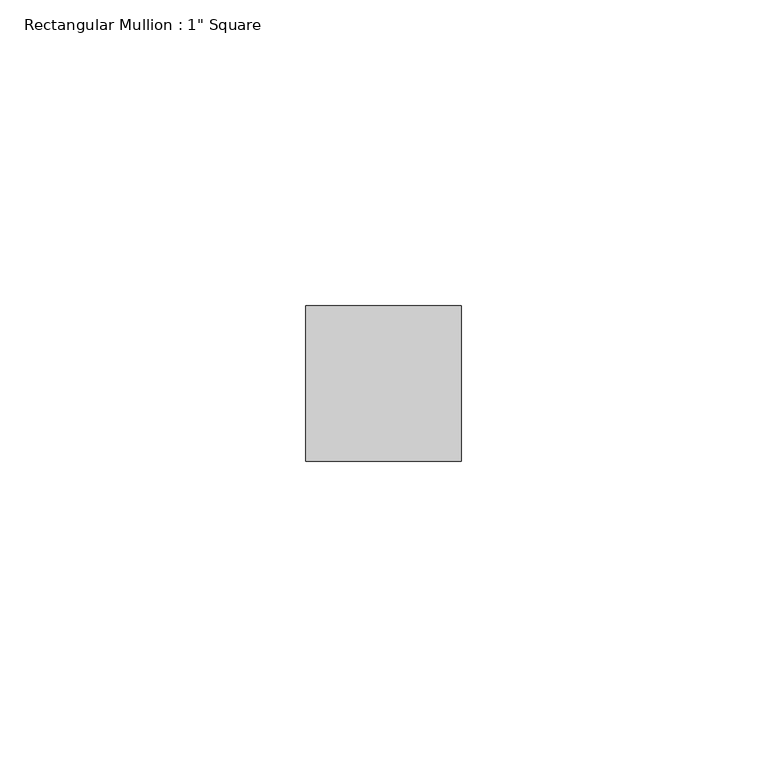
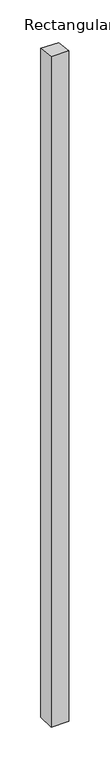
"""IFC4 building model written with IfcOpenShell, lengths in millimetres: member geometry."""

from ifc_helpers import new_model, si_unit, frame, origin, place, context, project, spatial, polyline, outline, extrude, source, transform, mapped, element, save


def member_0322ee24(model_context):
    return source(origin(), model_context, "Body", "SweptSolid", [
        extrude(outline(polyline([(-12.7, 1.4005781), (12.7, -1.4005781), (12.7, -1004.6900408), (-12.7, -1004.6900408), (-12.7, 1.4005781)])), frame((-12.7, 0.0, 0.0), z_axis=(1.0, 0.0, 0.0), x_axis=(0.0, 1.0, 0.0)), (0.0, 0.0, 1.0), 25.4),
    ])


if __name__ == "__main__":
    model = new_model("IFC4")
    model_context = context("Model", 3, world=origin())
    ifc_project = project(units=[si_unit("LENGTHUNIT", "METRE", prefix="MILLI")], contexts=[model_context])
    site = spatial("IfcSite", under=ifc_project)
    building = spatial("IfcBuilding", under=site)
    placement = place(None, origin())
    member_shape = member_0322ee24(model_context)
    element("IfcMember", 1, ObjectType="Rectangular Mullion : 1\" Square", at=placement, inside=building, context=model_context, shape_type="MappedRepresentation", body=[
        mapped(member_shape, transform((0.0, 0.0, 0.0), x_axis=(1.0, 0.0, 0.0), y_axis=(0.0, 1.0, 0.0), z_axis=(0.0, 0.0, 1.0))),
    ])
    save(model, "model.ifc")
